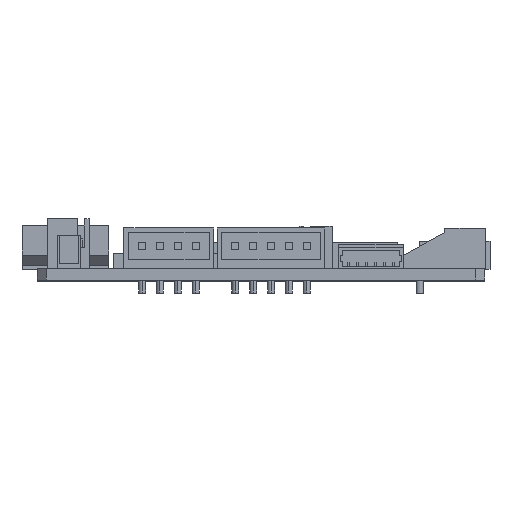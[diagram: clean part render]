
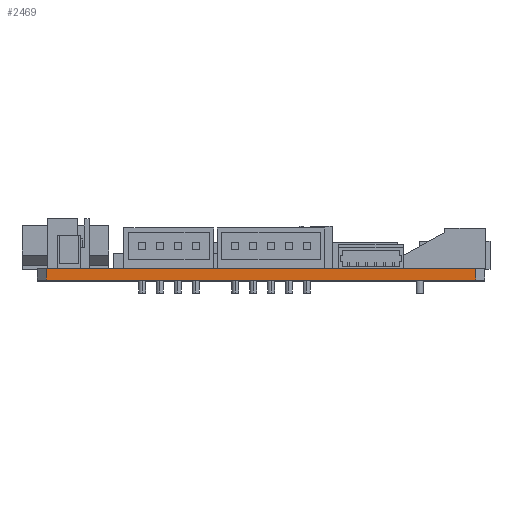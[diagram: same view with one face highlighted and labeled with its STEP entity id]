
A CAD part, top view. The second image highlights one B-rep face of the part: STEP entity #2469.
In plain terms, the highlighted planar face has unit normal (0, 0, 1).
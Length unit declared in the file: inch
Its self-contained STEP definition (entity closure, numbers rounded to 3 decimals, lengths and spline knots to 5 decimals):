
#285 = CARTESIAN_POINT ( 'NONE',  ( -1.234, 0., 1.8 ) ) ;
#1723 = CARTESIAN_POINT ( 'NONE',  ( 1.184, 0., 1.8 ) ) ;
#2469 = ADVANCED_FACE ( 'NONE', ( #8589 ), #2869, .F. ) ;
#2869 = PLANE ( 'NONE',  #7738 ) ;
#6710 = VERTEX_POINT ( 'NONE', #1723 ) ;
#7358 = VECTOR ( 'NONE', #20164, 39.37008 ) ;
#7738 = AXIS2_PLACEMENT_3D ( 'NONE', #20417, #20608, #25786 ) ;
#8325 = VECTOR ( 'NONE', #8971, 39.37008 ) ;
#8589 = FACE_OUTER_BOUND ( 'NONE', #14659, .T. ) ;
#8782 = CARTESIAN_POINT ( 'NONE',  ( -1.234, 0.063, 1.8 ) ) ;
#8971 = DIRECTION ( 'NONE',  ( 1., 0., 0. ) ) ;
#13251 = VERTEX_POINT ( 'NONE', #18928 ) ;
#14525 = CARTESIAN_POINT ( 'NONE',  ( -1.184, 0.063, 1.8 ) ) ;
#14659 = EDGE_LOOP ( 'NONE', ( #21732, #19177, #30637, #26937 ) ) ;
#14901 = EDGE_CURVE ( 'NONE', #20533, #13251, #26731, .T. ) ;
#16140 = VERTEX_POINT ( 'NONE', #33179 ) ;
#17647 = LINE ( 'NONE', #285, #33733 ) ;
#18210 = DIRECTION ( 'NONE',  ( 1., 0., 0. ) ) ;
#18658 = DIRECTION ( 'NONE',  ( 0., 1., 0. ) ) ;
#18928 = CARTESIAN_POINT ( 'NONE',  ( 1.184, 0.063, 1.8 ) ) ;
#19177 = ORIENTED_EDGE ( 'NONE', *, *, #30491, .T. ) ;
#19547 = EDGE_CURVE ( 'NONE', #20533, #16140, #37363, .T. ) ;
#20164 = DIRECTION ( 'NONE',  ( 0., -1., 0. ) ) ;
#20417 = CARTESIAN_POINT ( 'NONE',  ( -1.234, 0.063, 1.8 ) ) ;
#20418 = VECTOR ( 'NONE', #18658, 39.37008 ) ;
#20533 = VERTEX_POINT ( 'NONE', #14525 ) ;
#20608 = DIRECTION ( 'NONE',  ( 0., 0., -1. ) ) ;
#21732 = ORIENTED_EDGE ( 'NONE', *, *, #27019, .T. ) ;
#25786 = DIRECTION ( 'NONE',  ( -1., 0., 0. ) ) ;
#26731 = LINE ( 'NONE', #8782, #8325 ) ;
#26937 = ORIENTED_EDGE ( 'NONE', *, *, #19547, .T. ) ;
#27019 = EDGE_CURVE ( 'NONE', #16140, #6710, #17647, .T. ) ;
#30491 = EDGE_CURVE ( 'NONE', #6710, #13251, #35470, .T. ) ;
#30637 = ORIENTED_EDGE ( 'NONE', *, *, #14901, .F. ) ;
#31630 = CARTESIAN_POINT ( 'NONE',  ( -1.184, 0.063, 1.8 ) ) ;
#33179 = CARTESIAN_POINT ( 'NONE',  ( -1.184, 0., 1.8 ) ) ;
#33733 = VECTOR ( 'NONE', #18210, 39.37008 ) ;
#35470 = LINE ( 'NONE', #35656, #20418 ) ;
#35656 = CARTESIAN_POINT ( 'NONE',  ( 1.184, 0.063, 1.8 ) ) ;
#37363 = LINE ( 'NONE', #31630, #7358 ) ;
